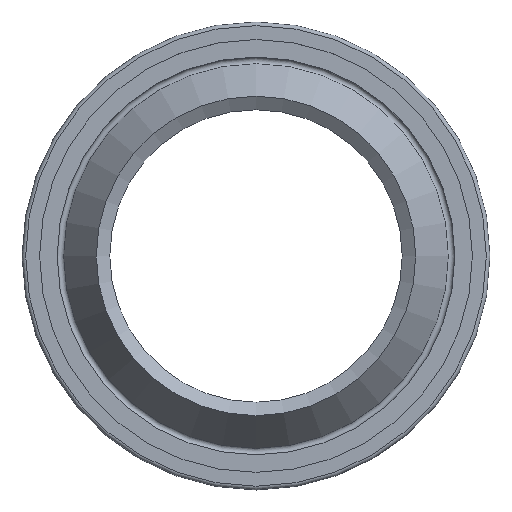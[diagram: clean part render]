
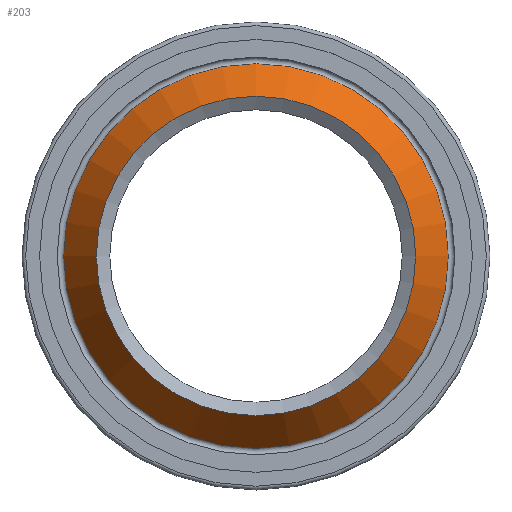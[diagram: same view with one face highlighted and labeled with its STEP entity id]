
A CAD part, top view. The second image highlights one B-rep face of the part: STEP entity #203.
In plain terms, the highlighted conical face has half-angle 36.444 degrees and reference radius 12.261 mm.
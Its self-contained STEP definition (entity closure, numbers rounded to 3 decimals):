
#15=CONICAL_SURFACE('',#252,12.262,0.636);
#27=LINE('',#376,#35);
#35=VECTOR('',#308,12.262);
#51=FACE_OUTER_BOUND('',#68,.T.);
#68=EDGE_LOOP('',(#159,#160,#161,#162));
#86=CIRCLE('',#249,13.149);
#89=CIRCLE('',#253,10.923);
#103=VERTEX_POINT('',#369);
#105=VERTEX_POINT('',#375);
#121=EDGE_CURVE('',#103,#103,#86,.T.);
#124=EDGE_CURVE('',#103,#105,#27,.T.);
#125=EDGE_CURVE('',#105,#105,#89,.T.);
#159=ORIENTED_EDGE('',*,*,#121,.F.);
#160=ORIENTED_EDGE('',*,*,#124,.T.);
#161=ORIENTED_EDGE('',*,*,#125,.T.);
#162=ORIENTED_EDGE('',*,*,#124,.F.);
#203=ADVANCED_FACE('',(#51),#15,.T.);
#249=AXIS2_PLACEMENT_3D('',#370,#300,#301);
#252=AXIS2_PLACEMENT_3D('',#374,#306,#307);
#253=AXIS2_PLACEMENT_3D('',#377,#309,#310);
#300=DIRECTION('center_axis',(0.,0.,-1.));
#301=DIRECTION('ref_axis',(1.,0.,0.));
#306=DIRECTION('center_axis',(0.,0.,-1.));
#307=DIRECTION('ref_axis',(-1.,0.,0.));
#308=DIRECTION('',(-0.594,0.,0.804));
#309=DIRECTION('center_axis',(0.,0.,-1.));
#310=DIRECTION('ref_axis',(-1.,0.,0.));
#369=CARTESIAN_POINT('',(13.149,0.,-3.764));
#370=CARTESIAN_POINT('Origin',(0.,0.,-3.764));
#374=CARTESIAN_POINT('Origin',(0.,0.,-2.563));
#375=CARTESIAN_POINT('',(10.923,0.,-0.75));
#376=CARTESIAN_POINT('',(12.262,0.,-2.563));
#377=CARTESIAN_POINT('Origin',(0.,0.,-0.75));
